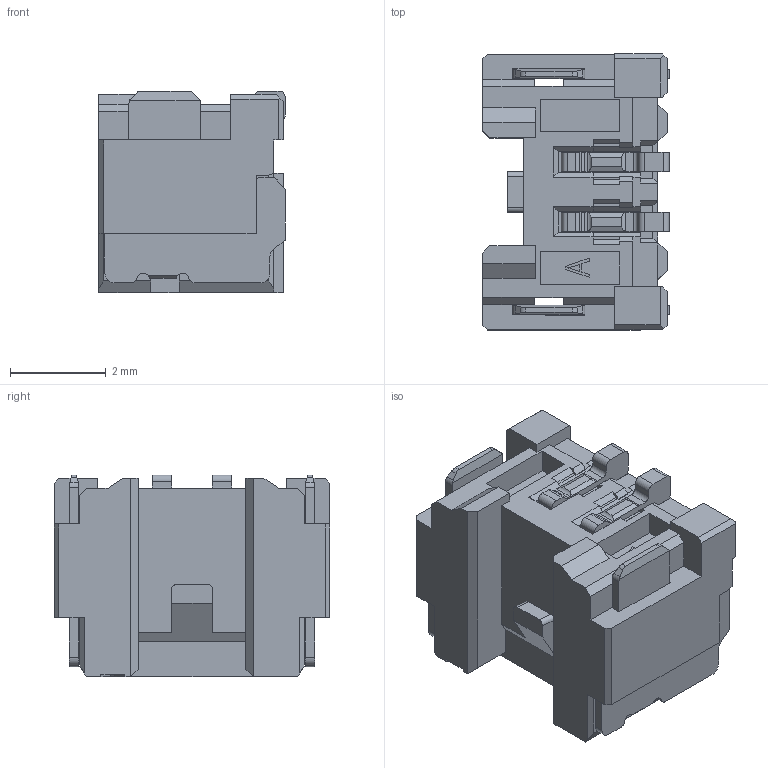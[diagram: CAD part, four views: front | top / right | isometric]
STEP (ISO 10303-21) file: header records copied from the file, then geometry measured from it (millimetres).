
FILE_DESCRIPTION(/* description */ (''),/* implementation_level */ '2;1');
FILE_NAME(/* name */ 'A1256 针座-2P.stp',/* time_stamp */ '2026-04-08T19:54:29+08:00',/* author */ (''),/* organization */ (''),/* preprocessor_version */ 'ST-DEVELOPER v16',/* originating_system */ 'SIEMENS PLM Software NX 10.0',/* authorisation */ '');
FILE_SCHEMA (('CONFIG_CONTROL_DESIGN'));
Length unit declared in the file: millimetre
Products named in the file (1): A1256针座2P
Bounding box: 3.89 x 5.75 x 4.21 mm (x, y, z)
Volume: 47.6 mm3; surface area: 243 mm2
Topology: 1 solids, 1 shells, 457 faces, 1351 edges, 872 vertices
Faces by surface type: plane 364, cylinder 87, cone 4, extrusion 2
Entity records: 15170 total; most frequent: CARTESIAN_POINT 2738, ORIENTED_EDGE 2698, DIRECTION 2442, EDGE_CURVE 1349, VECTOR 1142, LINE 1140, VERTEX_POINT 872, AXIS2_PLACEMENT_3D 650
